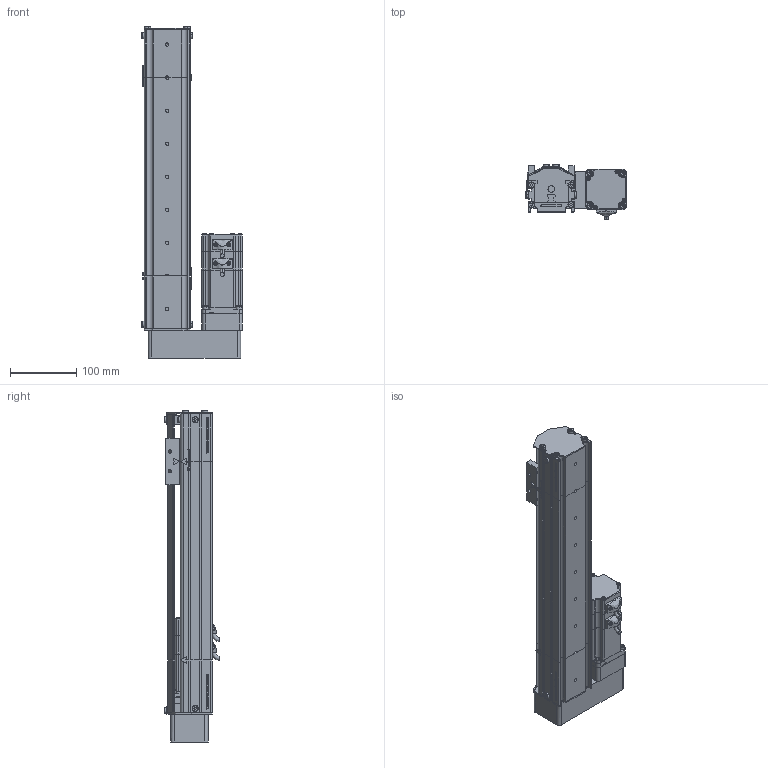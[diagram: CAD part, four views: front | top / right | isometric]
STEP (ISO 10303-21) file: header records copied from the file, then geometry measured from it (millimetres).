
FILE_DESCRIPTION (( 'STEP AP214' ), '1' );
FILE_NAME ('S07 TS BR S300.STEP', '2010-06-29T11:08:25', ( 'Conseil Régional Haute-Normandie' ), ( 'Conseil Régional Haute-Normandie' ), 'SwSTEP 2.0', 'SolidWorks 2010', '' );
FILE_SCHEMA (( 'AUTOMOTIVE_DESIGN' ));
Length unit declared in the file: millimetre
Products named in the file (35): T皻e d''axe Haut 2_Default; Axe 60BLDC_Default; S07 tail (78)_Default; S07 TS BR S300; Conecteur 60BLDC_Default; couvercle S07 course 300 ; arbre + rail Course 300 ; Corp S07 course 300_Default; VisM3_Default; Conecteur2 60BLDC_Default; Course 300_Default; Vis M5 L16-2_Default; couvercle S07 (78); plaque de bout_Default; T皻e d''axe bas_Default; guide; chariot_Default; Arbre+rail tail78; vis M5 L16_Default; corp moteur BR(124)_Default; S07 BR(124)_Default; Chariot; vis M5 L5_Default; vis M5 L12_Default; couvercle moteur S07 BR(124); plaque de bout BR_Default; arbre S07 moteur; rail S07 moteur; P1_Default; GMB 60 90 310_Default; Plaque racord_Default; P4_Default; P3 90A_Default; P2 90A_Default; corp couvert coupé_Default
Assembly tree (61 placements, depth 4):
  S07 TS BR S300
    chariot_Default
      guide
      vis M5 L12_Default  x2
      Chariot
    S07 BR(124)_Default
      couvercle moteur S07 BR(124)
      rail S07 moteur
      vis M5 L12_Default  x2
      Plaque racord_Default
      vis M5 L5_Default  x2
      arbre S07 moteur
      corp moteur BR(124)_Default
      Vis M5 L16-2_Default  x4
      GMB 60 90 310_Default
        VisM3_Default  x12
        P1_Default
        Conecteur 60BLDC_Default
        P2 90A_Default
        Conecteur2 60BLDC_Default
        P3 90A_Default
        Axe 60BLDC_Default
        P4_Default
      plaque de bout BR_Default
    Course 300_Default
      Corp S07 course 300_Default
      arbre + rail Course 300 
      couvercle S07 course 300 
    S07 tail (78)_Default
      vis M5 L12_Default  x8
      T皻e d''axe bas_Default
      couvercle S07 (78)
      vis M5 L16_Default  x2
      corp couvert coupé_Default
      T皻e d''axe Haut 2_Default
      Arbre+rail tail78
      plaque de bout_Default
Bounding box: 152.2 x 83.7 x 502 mm (x, y, z)
Volume: 1569131.1 mm3; surface area: 500241 mm2
Topology: 82 solids, 82 shells, 3338 faces, 8424 edges, 5471 vertices
Faces by surface type: plane 1895, bspline 677, cylinder 581, torus 96, cone 89
Entity records: 157836 total; most frequent: CARTESIAN_POINT 73513, ORIENTED_EDGE 14104, DIRECTION 10823, EDGE_CURVE 7052, VERTEX_POINT 4661, LINE 4645, VECTOR 4645, AXIS2_PLACEMENT_3D 3089
